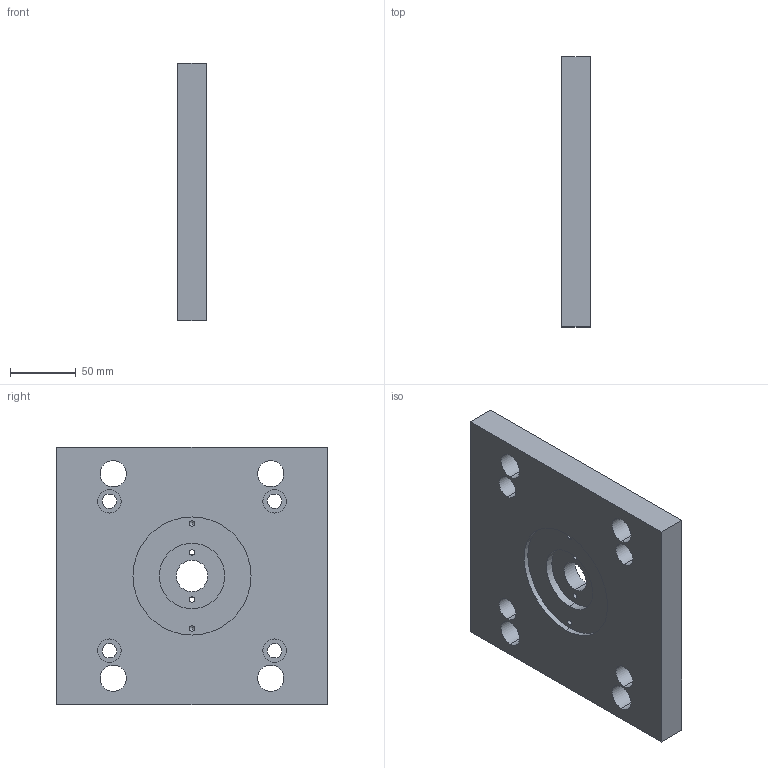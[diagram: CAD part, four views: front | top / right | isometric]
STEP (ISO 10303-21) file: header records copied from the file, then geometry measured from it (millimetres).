
FILE_DESCRIPTION (( 'STEP AP203' ), '1' );
FILE_NAME ('001 Plaque de Fixation.STEP', '2021-10-27T18:17:11', ( '' ), ( '' ), 'SwSTEP 2.0', 'SolidWorks 2019', '' );
FILE_SCHEMA (( 'CONFIG_CONTROL_DESIGN' ));
Length unit declared in the file: millimetre
Products named in the file (1): 001 Plaque de Fixation
Bounding box: 22 x 206 x 196 mm (x, y, z)
Volume: 800476.1 mm3; surface area: 107488.4 mm2
Topology: 1 solids, 1 shells, 54 faces, 134 edges, 86 vertices
Faces by surface type: cylinder 38, plane 12, cone 4
Entity records: 1735 total; most frequent: DIRECTION 316, CARTESIAN_POINT 271, ORIENTED_EDGE 260, AXIS2_PLACEMENT_3D 131, EDGE_CURVE 130, VERTEX_POINT 86, EDGE_LOOP 84, CIRCLE 76
